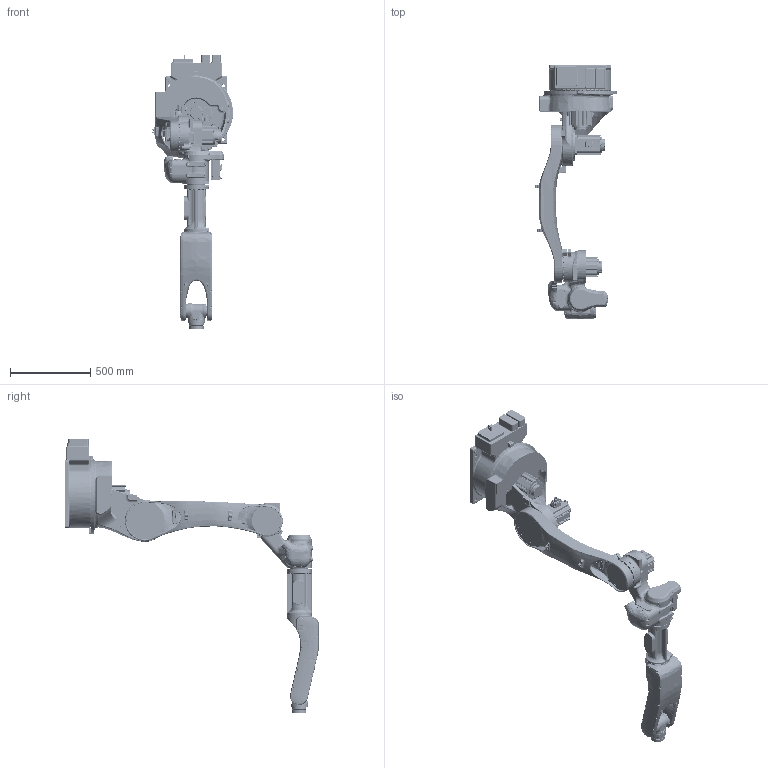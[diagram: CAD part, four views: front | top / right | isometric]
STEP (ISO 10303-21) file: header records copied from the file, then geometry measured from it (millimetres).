
FILE_DESCRIPTION (( 'STEP AP214' ), '1' );
FILE_NAME ('RH20-10 唸堍(迣疏).STEP', '2024-02-26T02:11:00', ( '' ), ( '' ), 'SwSTEP 2.0', 'SolidWorks 2021', '' );
FILE_SCHEMA (( 'AUTOMOTIVE_DESIGN' ));
Length unit declared in the file: millimetre
Products named in the file (8): CR1800 shell 紵窒; CR1800 shell 湮旋; CR1800 shell 苤旋; RH20-10 唸堍(迣疏); CR140600C勂窒郪璃; CR2000 shell 晊酗裝; CR1800 shell 菁釱; CR1800 shell 殈窒 
Assembly tree (7 placements, depth 2):
  RH20-10 唸堍(迣疏)
    CR1800 shell 殈窒 
    CR1800 shell 菁釱
    CR1800 shell 湮旋
    CR1800 shell 紵窒
    CR1800 shell 苤旋
    CR2000 shell 晊酗裝
    CR140600C勂窒郪璃
Bounding box: 511.16 x 1585 x 1711 mm (x, y, z)
Surface area: 4334038.7 mm2 (no closed solid volume)
Topology: 0 solids, 220 shells, 5613 faces, 17851 edges, 11880 vertices
Faces by surface type: cylinder 1774, plane 1476, bspline 1364, torus 562, cone 365, sphere 72
Entity records: 335289 total; most frequent: CARTESIAN_POINT 168014, ORIENTED_EDGE 29280, DIRECTION 27949, EDGE_CURVE 17590, VERTEX_POINT 11860, AXIS2_PLACEMENT_3D 10709, LINE 6531, VECTOR 6531
